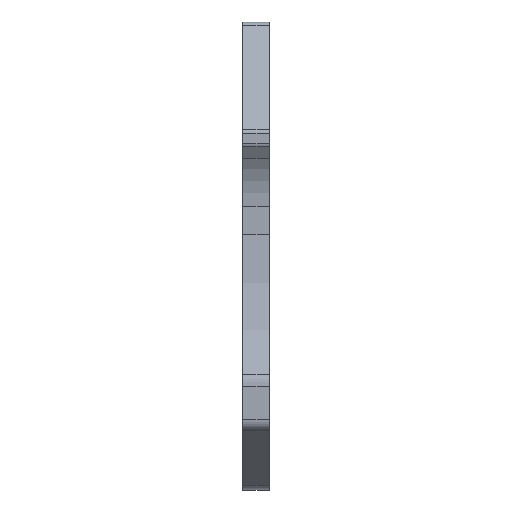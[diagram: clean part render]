
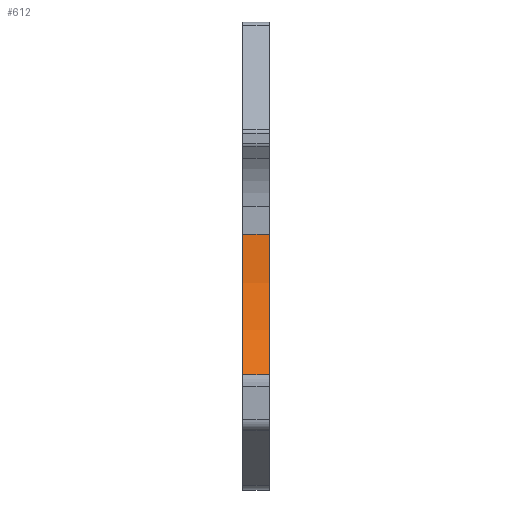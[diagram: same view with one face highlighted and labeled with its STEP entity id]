
A CAD part, left-side view. The second image highlights one B-rep face of the part: STEP entity #612.
In plain terms, the highlighted cylindrical face has radius 25 mm (diameter 50 mm), a partial arc.
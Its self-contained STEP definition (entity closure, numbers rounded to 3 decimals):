
#232=CARTESIAN_POINT('',(-25.15,-2.2,22.102));
#233=VERTEX_POINT('',#232);
#240=CARTESIAN_POINT('',(-28.159,-2.2,10.209));
#241=VERTEX_POINT('',#240);
#242=CARTESIAN_POINT('',(-50.15,-2.2,22.1));
#243=DIRECTION('',(0.88,0.,-0.476));
#244=DIRECTION('',(0.,-1.,0.));
#245=AXIS2_PLACEMENT_3D('',#242,#244,#243);
#246=CIRCLE('',#245,25.);
#247=EDGE_CURVE('',#241,#233,#246,.T.);
#570=CARTESIAN_POINT('',(-25.15,0.,22.102));
#571=VERTEX_POINT('',#570);
#578=CARTESIAN_POINT('',(-25.15,-2.2,22.102));
#579=DIRECTION('',(0.,1.,0.));
#580=VECTOR('',#579,2.2);
#581=LINE('',#578,#580);
#582=EDGE_CURVE('',#233,#571,#581,.T.);
#588=CARTESIAN_POINT('',(-50.15,0.22,22.1));
#589=DIRECTION('',(0.88,0.,-0.476));
#590=DIRECTION('',(0.,-1.,0.));
#591=AXIS2_PLACEMENT_3D('',#588,#590,#589);
#592=CYLINDRICAL_SURFACE('',#591,25.);
#593=ORIENTED_EDGE('',*,*,#582,.F.);
#594=ORIENTED_EDGE('',*,*,#247,.F.);
#595=CARTESIAN_POINT('',(-28.159,0.,10.209));
#596=VERTEX_POINT('',#595);
#597=CARTESIAN_POINT('',(-28.159,-2.2,10.209));
#598=DIRECTION('',(0.,1.,0.));
#599=VECTOR('',#598,2.2);
#600=LINE('',#597,#599);
#601=EDGE_CURVE('',#241,#596,#600,.T.);
#602=ORIENTED_EDGE('E219',*,*,#601,.T.);
#603=CARTESIAN_POINT('',(-50.15,0.,22.1));
#604=DIRECTION('',(0.88,0.,-0.476));
#605=DIRECTION('',(0.,-1.,0.));
#606=AXIS2_PLACEMENT_3D('',#603,#605,#604);
#607=CIRCLE('',#606,25.);
#608=EDGE_CURVE('',#596,#571,#607,.T.);
#609=ORIENTED_EDGE('E93',*,*,#608,.T.);
#610=EDGE_LOOP('',(#593,#594,#602,#609));
#611=FACE_OUTER_BOUND('',#610,.F.);
#612=ADVANCED_FACE('F18',(#611),#592,.F.);
